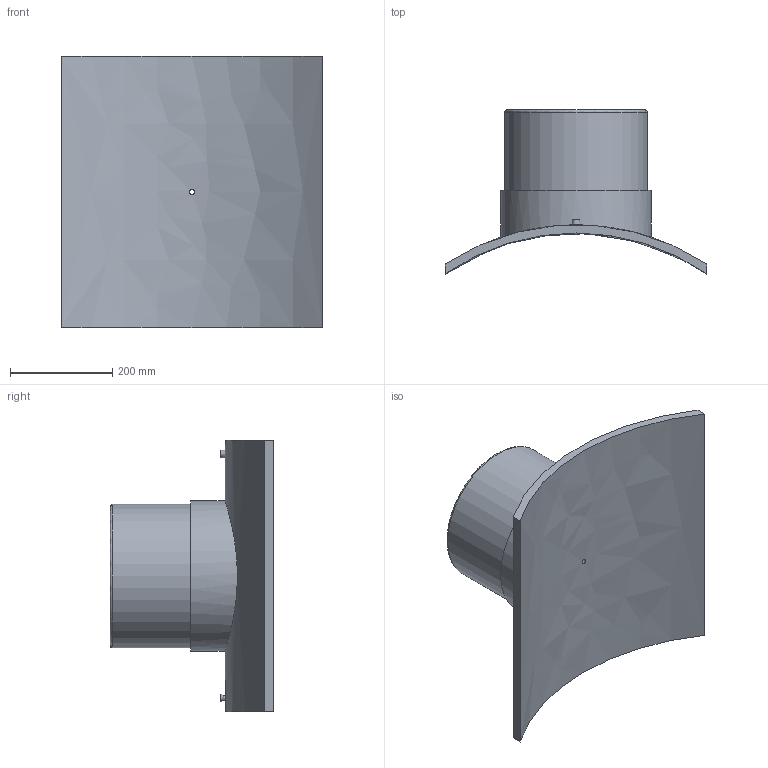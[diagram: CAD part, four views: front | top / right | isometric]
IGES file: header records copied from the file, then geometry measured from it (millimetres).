
Global section: file name: 495803900280T.ipt; native system: Autodesk Inventor 2019; preprocessor: unknown; author: KIM; date: 20210225.095244; units: millimetre
Bounding box: 511 x 320.57 x 530 mm (x, y, z)
Volume: 10281876.9 mm3; surface area: 995405.8 mm2
Topology: 2 solids, 2 shells, 29 faces, 54 edges, 38 vertices
Faces by surface type: plane 13, revolution 7, cylinder 7, cone 2
Full cylindrical faces by diameter (mm): 4 x2, 16 x1, 280 x1, 294 x1
